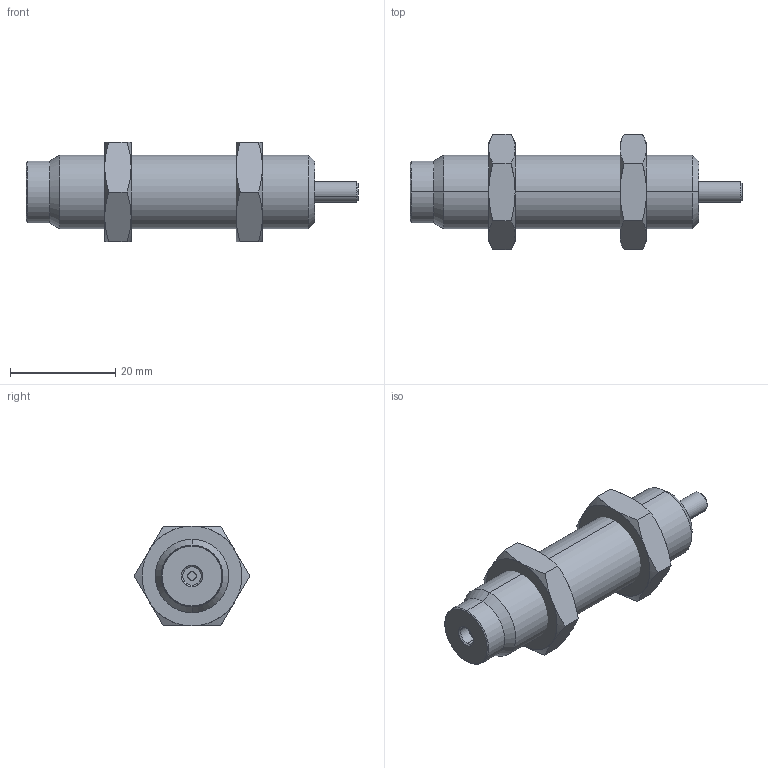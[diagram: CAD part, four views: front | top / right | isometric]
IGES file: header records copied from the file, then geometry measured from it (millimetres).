
Start section: SolidWorks IGES file using analytic representation for surfaces
Global section: file name: D:\IGS跡宒\AC1408-N.IGS,1; native system: 5HSolidWorks 2013; preprocessor: SolidWorks 2013; author: Administrator; date: 160406.151659; units: inch
Bounding box: 63.2 x 21.94 x 19 mm (x, y, z)
Surface area: 4437.9 mm2 (no closed solid volume)
Topology: 0 solids, 0 shells, 69 faces, 1112 edges, 1112 vertices
Faces by surface type: revolution 48, bspline 21
